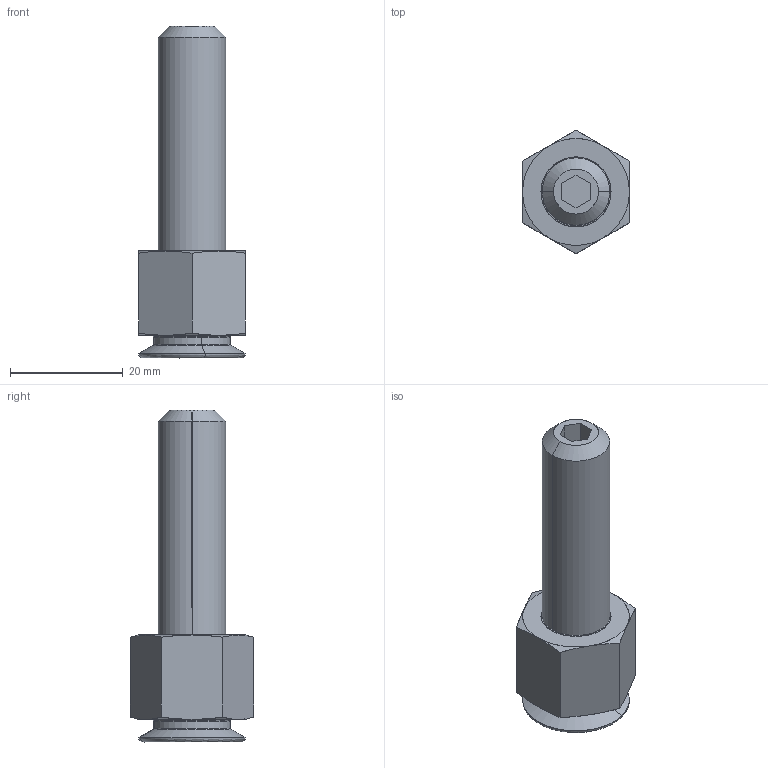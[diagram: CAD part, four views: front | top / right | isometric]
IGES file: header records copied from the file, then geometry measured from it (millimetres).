
Start section: SolidWorks IGES file using analytic representation for surfaces
Global section: file name: X:\11_SW2020-Inv2020\00_全2021-11新製品まで\b\BUH-12040-DS\buh-12040-ds.IGS; native system: SolidWorks 2020; preprocessor: SolidWorks 2020; author: ImaoCorp; date: 211025.100241; units: millimetre
Bounding box: 19 x 21.94 x 59.03 mm (x, y, z)
Surface area: 3593.6 mm2 (no closed solid volume)
Topology: 0 solids, 0 shells, 52 faces, 580 edges, 580 vertices
Faces by surface type: revolution 26, bspline 26
